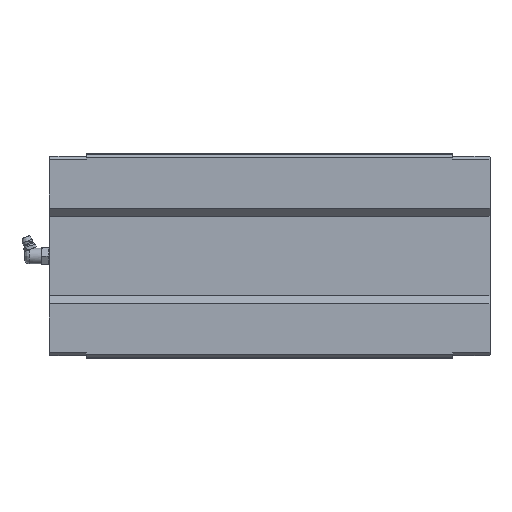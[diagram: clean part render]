
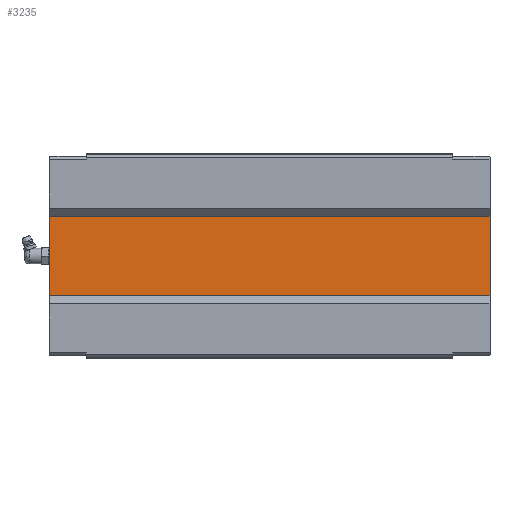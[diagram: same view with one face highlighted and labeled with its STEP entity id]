
A CAD part, front view. The second image highlights one B-rep face of the part: STEP entity #3235.
In plain terms, the highlighted planar face has unit normal (0, -1, 0).
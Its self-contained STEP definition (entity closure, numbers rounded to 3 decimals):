
#35 = CARTESIAN_POINT ( 'NONE',  ( 586., 53., -26.23 ) ) ;
#335 = DIRECTION ( 'NONE',  ( 0., 0., 1. ) ) ;
#388 = ORIENTED_EDGE ( 'NONE', *, *, #4219, .F. ) ;
#446 = EDGE_LOOP ( 'NONE', ( #388, #2128, #2740, #2210 ) ) ;
#610 = CARTESIAN_POINT ( 'NONE',  ( 586., 53., 26.23 ) ) ;
#679 = CARTESIAN_POINT ( 'NONE',  ( 586., 53., -26.23 ) ) ;
#1141 = AXIS2_PLACEMENT_3D ( 'NONE', #679, #3405, #335 ) ;
#1265 = LINE ( 'NONE', #3527, #2173 ) ;
#1274 = EDGE_CURVE ( 'NONE', #2254, #2070, #1265, .T. ) ;
#1547 = VERTEX_POINT ( 'NONE', #4843 ) ;
#1610 = FACE_OUTER_BOUND ( 'NONE', #446, .T. ) ;
#1613 = CARTESIAN_POINT ( 'NONE',  ( 314., 53., 26.23 ) ) ;
#1991 = DIRECTION ( 'NONE',  ( 1., 0., 0. ) ) ;
#2070 = VERTEX_POINT ( 'NONE', #610 ) ;
#2128 = ORIENTED_EDGE ( 'NONE', *, *, #4364, .F. ) ;
#2173 = VECTOR ( 'NONE', #1991, 1000. ) ;
#2175 = EDGE_CURVE ( 'NONE', #1547, #2254, #3478, .T. ) ;
#2210 = ORIENTED_EDGE ( 'NONE', *, *, #2175, .F. ) ;
#2222 = VECTOR ( 'NONE', #2614, 1000. ) ;
#2254 = VERTEX_POINT ( 'NONE', #1613 ) ;
#2382 = DIRECTION ( 'NONE',  ( 0., 0., -1. ) ) ;
#2606 = PLANE ( 'NONE',  #1141 ) ;
#2614 = DIRECTION ( 'NONE',  ( 0., 0., 1. ) ) ;
#2643 = DIRECTION ( 'NONE',  ( -1., 0., 0. ) ) ;
#2740 = ORIENTED_EDGE ( 'NONE', *, *, #1274, .F. ) ;
#3017 = VERTEX_POINT ( 'NONE', #4032 ) ;
#3043 = CARTESIAN_POINT ( 'NONE',  ( 586., 53., -26.23 ) ) ;
#3074 = LINE ( 'NONE', #35, #4352 ) ;
#3235 = ADVANCED_FACE ( 'NONE', ( #1610 ), #2606, .F. ) ;
#3405 = DIRECTION ( 'NONE',  ( 0., 1., 0. ) ) ;
#3478 = LINE ( 'NONE', #3745, #2222 ) ;
#3527 = CARTESIAN_POINT ( 'NONE',  ( 586., 53., 26.23 ) ) ;
#3745 = CARTESIAN_POINT ( 'NONE',  ( 314., 53., -26.23 ) ) ;
#3823 = LINE ( 'NONE', #3043, #4487 ) ;
#4032 = CARTESIAN_POINT ( 'NONE',  ( 586., 53., -26.23 ) ) ;
#4219 = EDGE_CURVE ( 'NONE', #3017, #1547, #3823, .T. ) ;
#4352 = VECTOR ( 'NONE', #2382, 1000. ) ;
#4364 = EDGE_CURVE ( 'NONE', #2070, #3017, #3074, .T. ) ;
#4487 = VECTOR ( 'NONE', #2643, 1000. ) ;
#4843 = CARTESIAN_POINT ( 'NONE',  ( 314., 53., -26.23 ) ) ;
